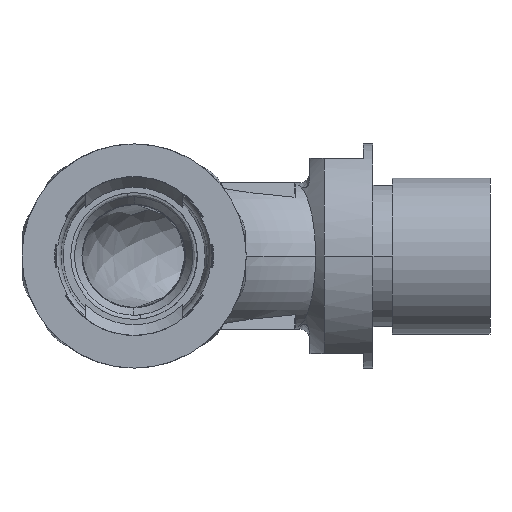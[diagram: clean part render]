
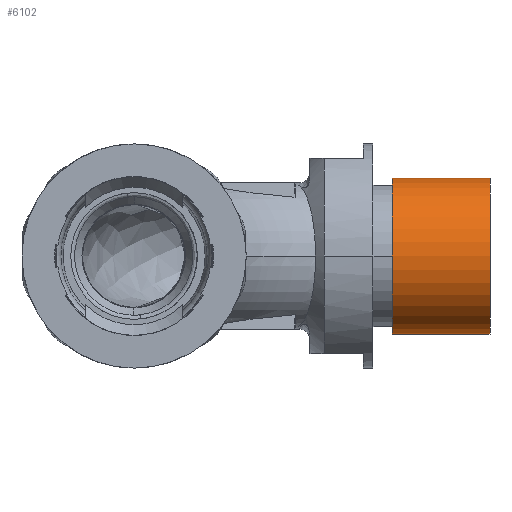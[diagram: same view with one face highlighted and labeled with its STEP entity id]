
A CAD part, front view. The second image highlights one B-rep face of the part: STEP entity #6102.
In plain terms, the highlighted cylindrical face has radius 8 mm (diameter 16 mm), a partial arc.
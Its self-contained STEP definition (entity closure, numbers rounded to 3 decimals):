
#72 = CARTESIAN_POINT ( 'NONE',  ( 26.5, 29.168, -8. ) ) ;
#384 = DIRECTION ( 'NONE',  ( 1., 0., 0. ) ) ;
#480 = DIRECTION ( 'NONE',  ( 1., 0., 0. ) ) ;
#906 = CARTESIAN_POINT ( 'NONE',  ( 24.5, 29.168, 0. ) ) ;
#1052 = EDGE_LOOP ( 'NONE', ( #4744, #4463, #3213, #9783 ) ) ;
#1199 = DIRECTION ( 'NONE',  ( -1., 0., 0. ) ) ;
#1298 = CARTESIAN_POINT ( 'NONE',  ( 26.5, 29.168, 0. ) ) ;
#2006 = LINE ( 'NONE', #3555, #9977 ) ;
#2467 = VERTEX_POINT ( 'NONE', #72 ) ;
#3213 = ORIENTED_EDGE ( 'NONE', *, *, #3447, .T. ) ;
#3364 = CIRCLE ( 'NONE', #6362, 8. ) ;
#3447 = EDGE_CURVE ( 'NONE', #2467, #5030, #2006, .T. ) ;
#3555 = CARTESIAN_POINT ( 'NONE',  ( 24.5, 29.168, -8. ) ) ;
#3971 = CARTESIAN_POINT ( 'NONE',  ( 36.5, 29.168, 0. ) ) ;
#4011 = CARTESIAN_POINT ( 'NONE',  ( 36.5, 29.168, -8. ) ) ;
#4463 = ORIENTED_EDGE ( 'NONE', *, *, #6118, .F. ) ;
#4744 = ORIENTED_EDGE ( 'NONE', *, *, #5130, .F. ) ;
#5030 = VERTEX_POINT ( 'NONE', #4011 ) ;
#5130 = EDGE_CURVE ( 'NONE', #6213, #9296, #8666, .T. ) ;
#5144 = DIRECTION ( 'NONE',  ( 0., 1., 0. ) ) ;
#5290 = FACE_OUTER_BOUND ( 'NONE', #1052, .T. ) ;
#5427 = VECTOR ( 'NONE', #7371, 1000. ) ;
#5893 = DIRECTION ( 'NONE',  ( 0., 0., -1. ) ) ;
#5951 = CARTESIAN_POINT ( 'NONE',  ( 24.5, 29.168, 8. ) ) ;
#6102 = ADVANCED_FACE ( 'NONE', ( #5290 ), #7712, .T. ) ;
#6118 = EDGE_CURVE ( 'NONE', #2467, #6213, #3364, .T. ) ;
#6213 = VERTEX_POINT ( 'NONE', #9838 ) ;
#6362 = AXIS2_PLACEMENT_3D ( 'NONE', #1298, #1199, #5144 ) ;
#6719 = CIRCLE ( 'NONE', #7855, 8. ) ;
#7371 = DIRECTION ( 'NONE',  ( 1., 0., 0. ) ) ;
#7712 = CYLINDRICAL_SURFACE ( 'NONE', #8291, 8. ) ;
#7842 = DIRECTION ( 'NONE',  ( 1., 0., 0. ) ) ;
#7855 = AXIS2_PLACEMENT_3D ( 'NONE', #3971, #7842, #9323 ) ;
#8012 = CARTESIAN_POINT ( 'NONE',  ( 36.5, 29.168, 8. ) ) ;
#8291 = AXIS2_PLACEMENT_3D ( 'NONE', #906, #480, #5893 ) ;
#8422 = EDGE_CURVE ( 'NONE', #9296, #5030, #6719, .T. ) ;
#8666 = LINE ( 'NONE', #5951, #5427 ) ;
#9296 = VERTEX_POINT ( 'NONE', #8012 ) ;
#9323 = DIRECTION ( 'NONE',  ( 0., 0., -1. ) ) ;
#9783 = ORIENTED_EDGE ( 'NONE', *, *, #8422, .F. ) ;
#9838 = CARTESIAN_POINT ( 'NONE',  ( 26.5, 29.168, 8. ) ) ;
#9977 = VECTOR ( 'NONE', #384, 1000. ) ;
